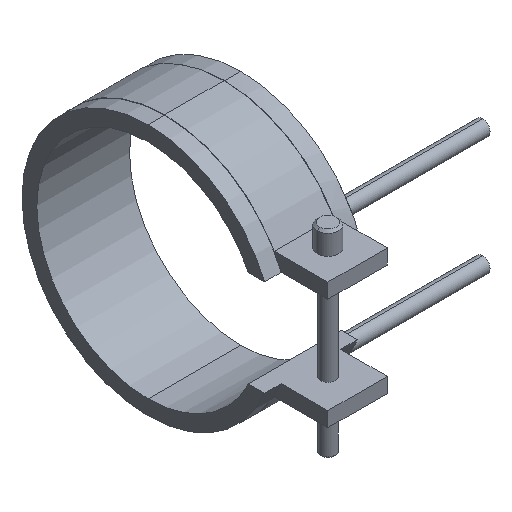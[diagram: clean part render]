
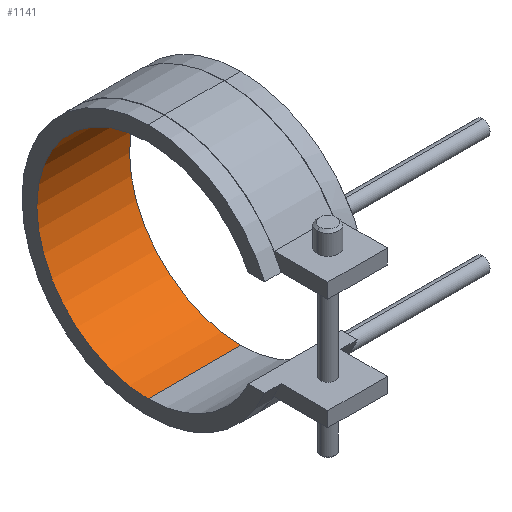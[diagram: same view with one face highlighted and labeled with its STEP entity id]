
A CAD part, isometric view. The second image highlights one B-rep face of the part: STEP entity #1141.
In plain terms, the highlighted cylindrical face has radius 30 mm (diameter 60 mm), a partial arc.
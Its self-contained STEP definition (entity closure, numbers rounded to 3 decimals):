
#822=CARTESIAN_POINT('Vertex',(-12.5,0.,-30.)) ;
#829=CARTESIAN_POINT('Vertex',(12.5,0.,-30.)) ;
#832=CARTESIAN_POINT('Line Origine',(12.5,0.,-30.)) ;
#850=CARTESIAN_POINT('Axis2P3D Location',(-12.5,0.,0.)) ;
#854=CARTESIAN_POINT('Vertex',(-12.5,0.,30.)) ;
#911=CARTESIAN_POINT('Vertex',(12.5,0.,30.)) ;
#921=CARTESIAN_POINT('Line Origine',(12.5,0.,30.)) ;
#1012=CARTESIAN_POINT('Axis2P3D Location',(12.5,0.,0.)) ;
#1130=CARTESIAN_POINT('Axis2P3D Location',(12.5,0.,0.)) ;
#833=DIRECTION('Vector Direction',(1.,0.,0.)) ;
#851=DIRECTION('Axis2P3D Direction',(1.,0.,0.)) ;
#922=DIRECTION('Vector Direction',(1.,0.,0.)) ;
#1013=DIRECTION('Axis2P3D Direction',(1.,0.,0.)) ;
#1131=DIRECTION('Axis2P3D Direction',(1.,0.,-0.)) ;
#1132=DIRECTION('Axis2P3D XDirection',(0.,0.,-1.)) ;
#852=AXIS2_PLACEMENT_3D('Circle Axis2P3D',#850,#851,$) ;
#1014=AXIS2_PLACEMENT_3D('Circle Axis2P3D',#1012,#1013,$) ;
#1133=AXIS2_PLACEMENT_3D('Cylinder Axis2P3D',#1130,#1131,#1132) ;
#1136=ORIENTED_EDGE('',*,*,#1016,.T.) ;
#1137=ORIENTED_EDGE('',*,*,#925,.T.) ;
#1138=ORIENTED_EDGE('',*,*,#856,.F.) ;
#1139=ORIENTED_EDGE('',*,*,#836,.T.) ;
#834=VECTOR('Line Direction',#833,1.) ;
#923=VECTOR('Line Direction',#922,1.) ;
#1141=ADVANCED_FACE('14060025',(#1140),#1134,.F.) ;
#853=CIRCLE('generated circle',#852,30.) ;
#1015=CIRCLE('generated circle',#1014,30.) ;
#1134=CYLINDRICAL_SURFACE('generated cylinder',#1133,30.) ;
#836=EDGE_CURVE('',#823,#830,#835,.T.) ;
#856=EDGE_CURVE('',#823,#855,#853,.T.) ;
#925=EDGE_CURVE('',#912,#855,#924,.F.) ;
#1016=EDGE_CURVE('',#830,#912,#1015,.T.) ;
#1135=EDGE_LOOP('',(#1136,#1137,#1138,#1139)) ;
#1140=FACE_OUTER_BOUND('',#1135,.T.) ;
#835=LINE('Line',#832,#834) ;
#924=LINE('Line',#921,#923) ;
#823=VERTEX_POINT('',#822) ;
#830=VERTEX_POINT('',#829) ;
#855=VERTEX_POINT('',#854) ;
#912=VERTEX_POINT('',#911) ;
